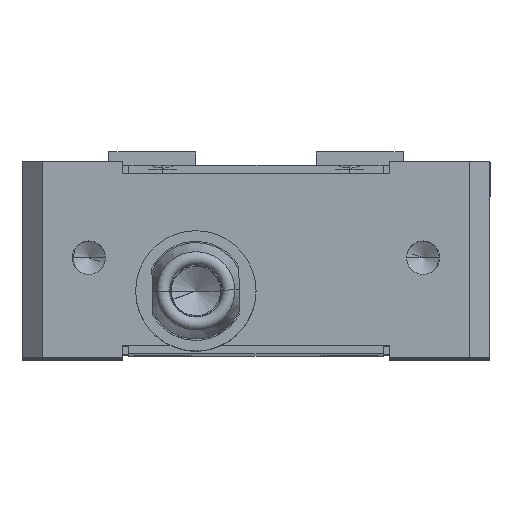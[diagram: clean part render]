
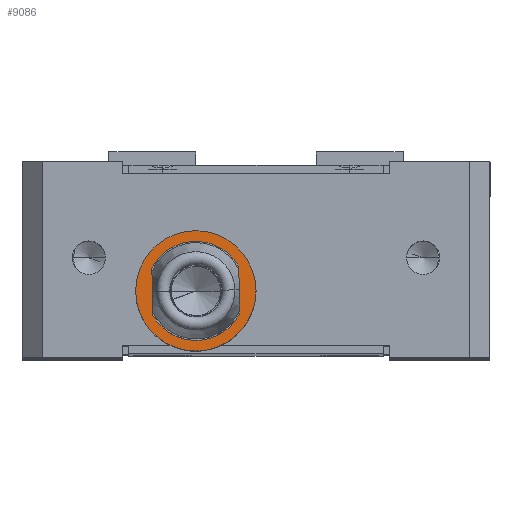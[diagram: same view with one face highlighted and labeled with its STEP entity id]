
A CAD part, top view. The second image highlights one B-rep face of the part: STEP entity #9086.
In plain terms, the highlighted planar face has unit normal (0, 0, 1).
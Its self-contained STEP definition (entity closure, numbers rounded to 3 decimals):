
#285 = CARTESIAN_POINT ( 'NONE',  ( -116.536, 9.672, 54. ) ) ;
#991 = ORIENTED_EDGE ( 'NONE', *, *, #4829, .F. ) ;
#1123 = CARTESIAN_POINT ( 'NONE',  ( -116.536, 9.672, 54. ) ) ;
#1415 = AXIS2_PLACEMENT_3D ( 'NONE', #12353, #11247, #1577 ) ;
#1500 = CARTESIAN_POINT ( 'NONE',  ( -112.036, 9.672, 54. ) ) ;
#1520 = CARTESIAN_POINT ( 'NONE',  ( -116.536, 9.672, 54. ) ) ;
#1577 = DIRECTION ( 'NONE',  ( 1., 0., 0. ) ) ;
#1791 = VERTEX_POINT ( 'NONE', #3994 ) ;
#2027 = EDGE_LOOP ( 'NONE', ( #5355, #14649 ) ) ;
#2618 = CARTESIAN_POINT ( 'NONE',  ( -119.786, 9.672, 54. ) ) ;
#2728 = AXIS2_PLACEMENT_3D ( 'NONE', #1520, #7579, #11195 ) ;
#2964 = DIRECTION ( 'NONE',  ( 1., 0., 0. ) ) ;
#3994 = CARTESIAN_POINT ( 'NONE',  ( -113.286, 9.672, 54. ) ) ;
#4115 = CIRCLE ( 'NONE', #6870, 4.5 ) ;
#4471 = AXIS2_PLACEMENT_3D ( 'NONE', #1123, #13245, #13171 ) ;
#4829 = EDGE_CURVE ( 'NONE', #1791, #8645, #12073, .T. ) ;
#4977 = CIRCLE ( 'NONE', #2728, 4.5 ) ;
#5326 = EDGE_CURVE ( 'NONE', #6385, #10432, #4115, .T. ) ;
#5355 = ORIENTED_EDGE ( 'NONE', *, *, #5326, .T. ) ;
#5859 = EDGE_LOOP ( 'NONE', ( #991, #10628 ) ) ;
#6385 = VERTEX_POINT ( 'NONE', #15137 ) ;
#6572 = DIRECTION ( 'NONE',  ( 0., 0., 1. ) ) ;
#6870 = AXIS2_PLACEMENT_3D ( 'NONE', #10879, #9444, #14172 ) ;
#7579 = DIRECTION ( 'NONE',  ( 0., 0., 1. ) ) ;
#8246 = AXIS2_PLACEMENT_3D ( 'NONE', #285, #6572, #2964 ) ;
#8645 = VERTEX_POINT ( 'NONE', #2618 ) ;
#8942 = CIRCLE ( 'NONE', #1415, 3.25 ) ;
#9086 = ADVANCED_FACE ( 'NONE', ( #12333, #11377 ), #10054, .T. ) ;
#9444 = DIRECTION ( 'NONE',  ( 0., 0., 1. ) ) ;
#10054 = PLANE ( 'NONE',  #8246 ) ;
#10432 = VERTEX_POINT ( 'NONE', #1500 ) ;
#10513 = EDGE_CURVE ( 'NONE', #8645, #1791, #8942, .T. ) ;
#10628 = ORIENTED_EDGE ( 'NONE', *, *, #10513, .F. ) ;
#10879 = CARTESIAN_POINT ( 'NONE',  ( -116.536, 9.672, 54. ) ) ;
#11195 = DIRECTION ( 'NONE',  ( 1., 0., 0. ) ) ;
#11247 = DIRECTION ( 'NONE',  ( 0., 0., 1. ) ) ;
#11377 = FACE_OUTER_BOUND ( 'NONE', #2027, .T. ) ;
#11447 = EDGE_CURVE ( 'NONE', #10432, #6385, #4977, .T. ) ;
#12073 = CIRCLE ( 'NONE', #4471, 3.25 ) ;
#12333 = FACE_BOUND ( 'NONE', #5859, .T. ) ;
#12353 = CARTESIAN_POINT ( 'NONE',  ( -116.536, 9.672, 54. ) ) ;
#13171 = DIRECTION ( 'NONE',  ( 1., 0., 0. ) ) ;
#13245 = DIRECTION ( 'NONE',  ( 0., 0., 1. ) ) ;
#14172 = DIRECTION ( 'NONE',  ( 1., 0., 0. ) ) ;
#14649 = ORIENTED_EDGE ( 'NONE', *, *, #11447, .T. ) ;
#15137 = CARTESIAN_POINT ( 'NONE',  ( -121.036, 9.672, 54. ) ) ;
